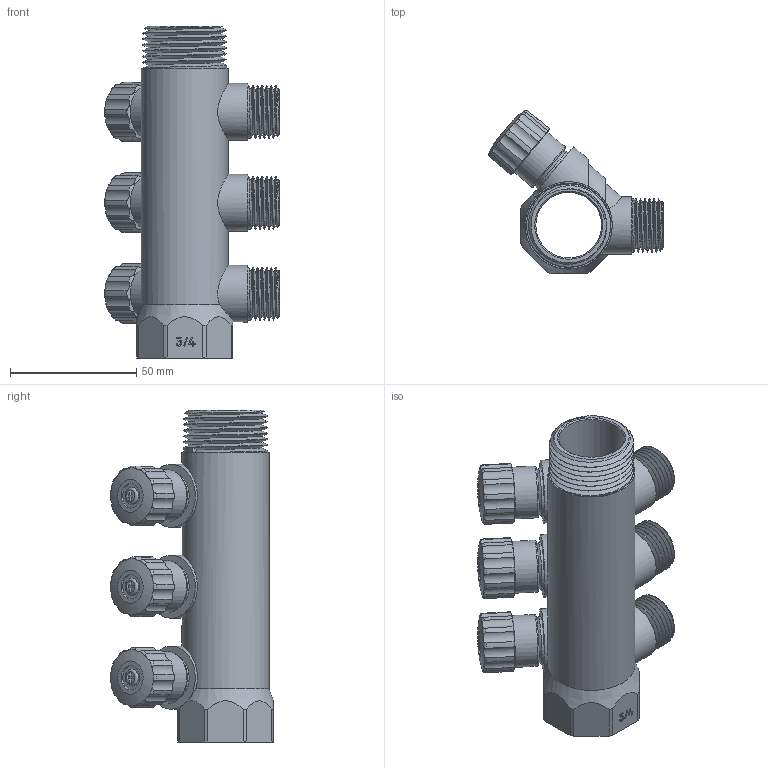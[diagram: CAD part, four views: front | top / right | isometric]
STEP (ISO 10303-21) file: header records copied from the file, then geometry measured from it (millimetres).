
FILE_DESCRIPTION(/* description */ (''),/* implementation_level */ '2;1');
FILE_NAME(/* name */ 'H:\Мишенин_3D\Исходные файлы 3D\VTc.560.N.0603.stp',/* time_stamp */ '2019-07-24T16:23:58+03:00',/* author */ ('misheninal'),/* organization */ (''),/* preprocessor_version */ 'ST-DEVELOPER v18',/* originating_system */ 'Autodesk Inventor 2020',/* authorisation */ '');
FILE_SCHEMA (('AUTOMOTIVE_DESIGN { 1 0 10303 214 3 1 1 }'));
Length unit declared in the file: millimetre
Products named in the file (1): VT.580_3%4_1%2-4
Bounding box: 69.21 x 64.75 x 131.5 mm (x, y, z)
Volume: 86052.6 mm3; surface area: 48458 mm2
Topology: 1 solids, 1 shells, 460 faces, 1310 edges, 884 vertices
Faces by surface type: cylinder 201, plane 132, bspline 57, torus 44, cone 26
Full cylindrical faces by diameter (mm): 9.679 x3, 10.5 x3, 15.1 x3, 16.1 x3, 17.4 x18, 18.621 x3, 20.621 x3, 21 x15, 22.5 x3, 25 x2, 26 x1, 28 x1, 28.7 x6, 30.3 x3, 33.3 x6, 33.8 x1, 34.5 x1, 34.9 x4
Entity records: 25968 total; most frequent: CARTESIAN_POINT 14607, ORIENTED_EDGE 2620, DIRECTION 2038, EDGE_CURVE 1310, VERTEX_POINT 884, AXIS2_PLACEMENT_3D 781, EDGE_LOOP 500, LINE 476
